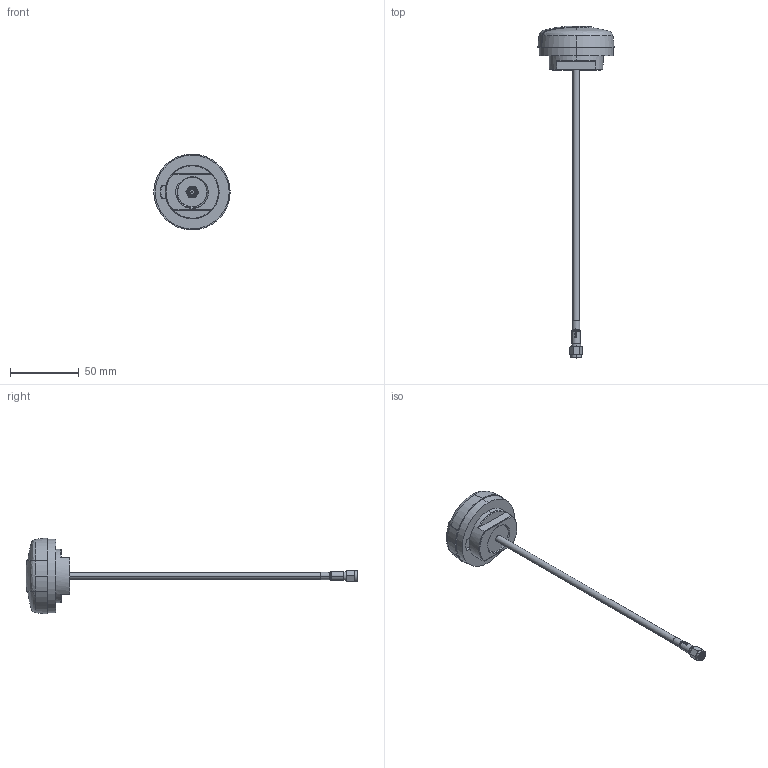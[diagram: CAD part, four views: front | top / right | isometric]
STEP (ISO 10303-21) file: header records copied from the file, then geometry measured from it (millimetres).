
FILE_DESCRIPTION (( 'STEP AP214' ), '1' );
FILE_NAME ('G24.A.305111.STEP', '2020-02-21T02:54:24', ( '' ), ( '' ), 'SwSTEP 2.0', 'SolidWorks 2017', '' );
FILE_SCHEMA (( 'AUTOMOTIVE_DESIGN' ));
Length unit declared in the file: millimetre
Products named in the file (8): 001316L100000A (for Assy)_Blue_CFD200; 000112A010020A_G22_Housing_bottom; NFC200 Coaxial Cable; 000112A020020A_G22_M20_Nut; 001012A000001A_G22_Sponge; G24.A.305111; STD SMA(M)ST.Au_default; 000112A000020A_G22_Housing_up
Assembly tree (7 placements, depth 2):
  G24.A.305111
    000112A010020A_G22_Housing_bottom
    000112A000020A_G22_Housing_up
    001012A000001A_G22_Sponge
    000112A020020A_G22_M20_Nut
    NFC200 Coaxial Cable
    STD SMA(M)ST.Au_default
    001316L100000A (for Assy)_Blue_CFD200
Bounding box: 55.7 x 242.3 x 55.4 mm (x, y, z)
Volume: 64204.4 mm3; surface area: 26765.8 mm2
Topology: 15 solids, 15 shells, 339 faces, 834 edges, 537 vertices
Faces by surface type: plane 111, cylinder 104, bspline 76, cone 28, torus 20
Entity records: 20451 total; most frequent: CARTESIAN_POINT 10803, ORIENTED_EDGE 1664, DIRECTION 1345, EDGE_CURVE 832, VERTEX_POINT 537, AXIS2_PLACEMENT_3D 516, EDGE_LOOP 363, FACE_OUTER_BOUND 339
